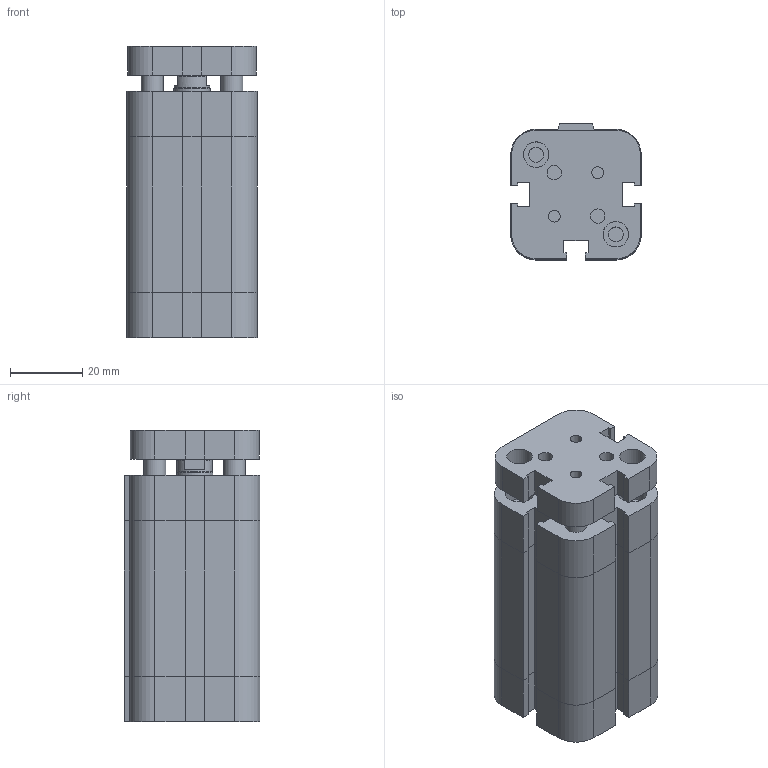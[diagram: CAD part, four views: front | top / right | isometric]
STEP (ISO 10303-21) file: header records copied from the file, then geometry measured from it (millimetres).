
FILE_DESCRIPTION((''),'2;1');
FILE_NAME('I:\Area Tecnica\Disegni\VARIE-3D\Componenti\EUROPE\15##_###_####_07_#\1581_20_0030_07_1.iam.stp','2009-04-20T15:19:46',(''),(''),'Autodesk Inventor 2009','Autodesk Inventor 2009','');
FILE_SCHEMA(('AUTOMOTIVE_DESIGN { 1 0 10303 214 1 1 1 1 }'));
Length unit declared in the file: millimetre
Products named in the file (3): 1581_20_0030_07_1; 1581_20_0030_07_1_C; 1561_20_0030_07_1_SA
Assembly tree (2 placements, depth 2):
  1581_20_0030_07_1
    1581_20_0030_07_1_C
    1561_20_0030_07_1_SA
Bounding box: 36 x 37.5 x 80.5 mm (x, y, z)
Volume: 87079.7 mm3; surface area: 26210.4 mm2
Topology: 2 solids, 2 shells, 206 faces, 483 edges, 301 vertices
Faces by surface type: plane 135, bspline 44, cylinder 21, cone 6
Full cylindrical faces by diameter (mm): 6 x2, 9.8 x2, 10 x1
Entity records: 6055 total; most frequent: CARTESIAN_POINT 1405, ORIENTED_EDGE 876, DIRECTION 854, EDGE_CURVE 438, VECTOR 340, LINE 340, VERTEX_POINT 286, EDGE_LOOP 268
